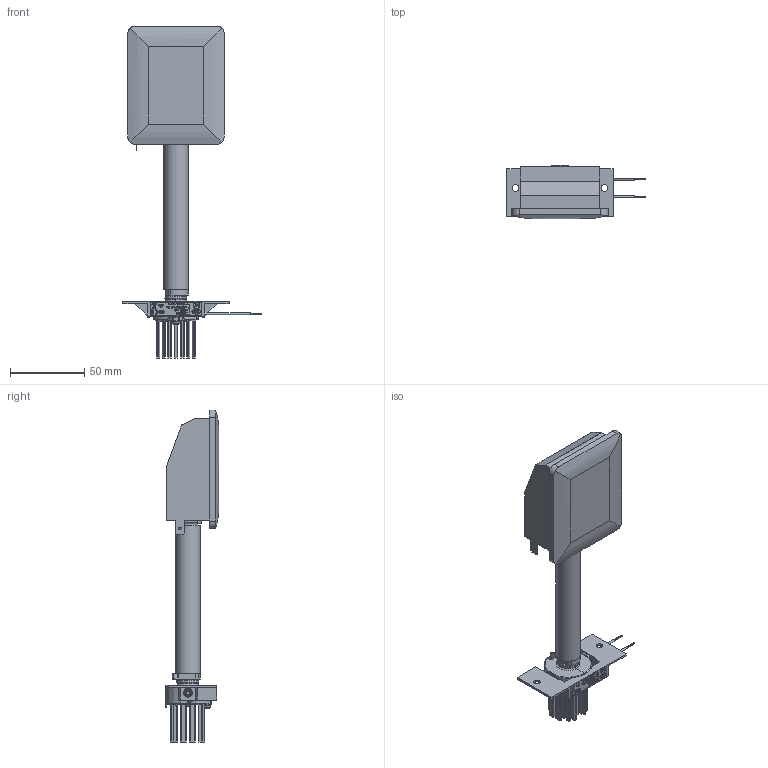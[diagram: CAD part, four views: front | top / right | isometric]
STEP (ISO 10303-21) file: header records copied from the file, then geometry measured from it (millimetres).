
FILE_DESCRIPTION(/* description */ ('Unknown'),/* implementation_level */ '2;1');
FILE_NAME(/* name */ '01Z-YEY-06',/* time_stamp */ '2026-06-11T08:32:57+02:00',/* author */ ('Unknown'),/* organization */ ('Unknown'),/* preprocessor_version */ 'ST-DEVELOPER v16.7',/* originating_system */ 'Solid Edge',/* authorisation */ 'Unknown');
FILE_SCHEMA (('AUTOMOTIVE_DESIGN {1 0 10303 214 3 1 1}'));
Products named in the file (22): 01Z-YEY-06; 01Z-Y1Z-0N; 01Z-Y3N-02; 01Y-D3U-02; 01Y-D0Q-06; 01Y-D0Q-05; 01Y-D0Q-07; 01V-N9Q-09; 01V-N9Q-0A; 01Y-D0R-05; 01Y-D1G-01; 01Z-Y20-09; 01Z-Y4G-0F; 01Z-YBG-04; 01Z-YDM-03; 01Z-YDG-01; 01Z-YDA-02; 01B-M2S-02; 01Z-YD8-04; 019-P03-0C; 01B-M05-0D; 01Z-YD9-02
Assembly tree (24 placements, depth 4):
  01Z-YEY-06
    01Z-Y1Z-0N
    01Z-Y3N-02
    01Y-D3U-02
      01Y-D0Q-06  x2
        01Y-D0Q-05
        01Y-D0Q-07
      01V-N9Q-09
        01V-N9Q-0A
    01Y-D0R-05  x2
    01Y-D1G-01  x2
    01Z-Y20-09
    01Z-Y4G-0F
    01Z-YBG-04
    01Z-YDM-03
    01Z-YDG-01
    01Z-YDA-02
    01B-M2S-02
      01Z-YD8-04
      019-P03-0C
      01B-M05-0D
      01Z-YD9-02
Bounding box: 93.35 x 36.33 x 224.31 mm (x, y, z)
Volume: 70214.8 mm3; surface area: 75684.7 mm2
Topology: 61 solids, 63 shells, 2425 faces, 6411 edges, 4220 vertices
Faces by surface type: plane 1690, cylinder 379, bspline 305, cone 33, torus 14, sphere 4
Full cylindrical faces by diameter (mm): 0.7 x2, 1 x1, 1.4 x2, 1.65 x1, 2.693 x2, 2.7 x2, 3 x4, 3.5 x3, 4.2 x1, 4.5 x2, 5.5 x2, 6 x2, 6.7 x1, 10 x1, 10.5 x1, 12.85 x1, 14.1 x2, 14.5 x1, 16.5 x1, 30.297 x1
Entity records: 80645 total; most frequent: CARTESIAN_POINT 24448, ORIENTED_EDGE 11734, DIRECTION 9083, EDGE_CURVE 5867, VERTEX_POINT 3930, LINE 3701, VECTOR 3701, AXIS2_PLACEMENT_3D 2691
